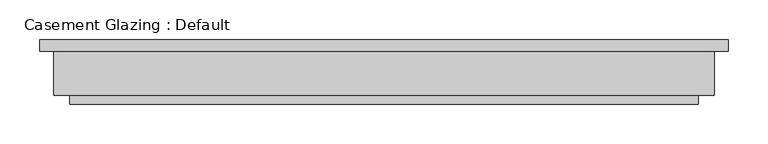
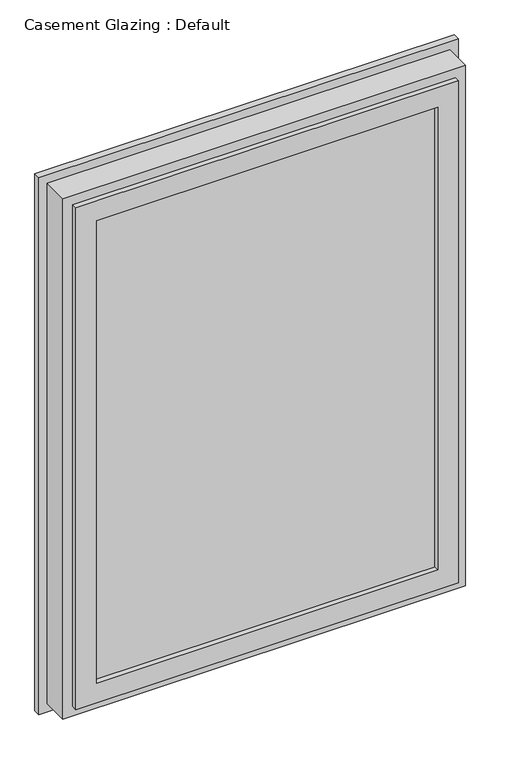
"""IFC4 building model written with IfcOpenShell, lengths in millimetres: proxy geometry, Casement Glazing : Default."""

from ifc_helpers import new_model, si_unit, frame, origin, place, context, project, spatial, polyline, outline, extrude, faceted_brep, source, transform, mapped, element, save


def casement_glazing_default_a0a45db6(model_context):
    return source(origin(), model_context, "Body", "SolidModel", [
        extrude(outline(polyline([(-381.0, -64.29375), (381.0, -64.29375), (381.0, -69.85), (-381.0, -69.85), (-381.0, -64.29375)])), frame((0.0, 0.0, 838.2), z_axis=(0.0, 0.0, 1.0), x_axis=(1.0, 0.0, 0.0)), (0.0, 0.0, 1.0), 1066.8),
        extrude(outline(polyline([(-381.0, -41.275), (381.0, -41.275), (381.0, -46.83125), (-381.0, -46.83125), (-381.0, -41.275)])), frame((0.0, 0.0, 838.2), z_axis=(0.0, 0.0, 1.0), x_axis=(1.0, 0.0, 0.0)), (0.0, 0.0, 1.0), 1066.8),
        faceted_brep([(-350.8375, -41.275, 868.3625), (350.8375, -41.275, 868.3625), (355.6, 0.0, 863.6), (-355.6, 0.0, 863.6), (-381.0, -20.6375, 838.2), (381.0, -20.6375, 838.2), (357.1875, -41.275, 862.0125), (-357.1875, -41.275, 862.0125), (-381.0, -1.5875, 838.2), (381.0, -1.5875, 838.2), (-390.525, 0.0, 828.675), (390.525, 0.0, 828.675), (390.525, -1.5875, 828.675), (-390.525, -1.5875, 828.675), (350.8375, -41.275, 1874.8375), (355.6, 0.0, 1879.6), (381.0, -20.6375, 1905.0), (357.1875, -41.275, 1881.1875), (381.0, -1.5875, 1905.0), (390.525, 0.0, 1914.525), (390.525, -1.5875, 1914.525), (-350.8375, -41.275, 1874.8375), (-355.6, 0.0, 1879.6), (-381.0, -20.6375, 1905.0), (-357.1875, -41.275, 1881.1875), (-381.0, -1.5875, 1905.0), (-390.525, 0.0, 1914.525), (-390.525, -1.5875, 1914.525)], [[[0, 1, 2, 3]], [[4, 5, 6, 7]], [[8, 9, 5, 4]], [[10, 11, 12, 13]], [[1, 14, 15, 2]], [[5, 16, 17, 6]], [[9, 18, 16, 5]], [[11, 19, 20, 12]], [[14, 21, 22, 15]], [[16, 23, 24, 17]], [[18, 25, 23, 16]], [[19, 26, 27, 20]], [[21, 0, 3, 22]], [[7, 6, 17, 24], [1, 0, 21, 14]], [[23, 4, 7, 24]], [[25, 8, 4, 23]], [[13, 12, 20, 27], [9, 8, 25, 18]], [[26, 10, 13, 27]], [[11, 10, 26, 19], [3, 2, 15, 22]]]),
        faceted_brep([(-390.525, -14.2875, 828.675), (390.525, -14.2875, 828.675), (390.525, 0.0, 828.675), (-390.525, 0.0, 828.675), (-381.0, -69.85, 838.2), (381.0, -69.85, 838.2), (381.0, -14.2875, 838.2), (-381.0, -14.2875, 838.2), (-352.425, -80.9625, 866.775), (352.425, -80.9625, 866.775), (352.425, -69.85, 866.775), (-352.425, -69.85, 866.775), (-395.2875, -69.85, 823.9125), (395.2875, -69.85, 823.9125), (395.2875, -80.9625, 823.9125), (-395.2875, -80.9625, 823.9125), (-415.925, -14.2875, 803.275), (415.925, -14.2875, 803.275), (415.925, -69.85, 803.275), (-415.925, -69.85, 803.275), (-433.3875, 0.0, 785.8125), (433.3875, 0.0, 785.8125), (433.3875, -14.2875, 785.8125), (-433.3875, -14.2875, 785.8125), (390.525, -14.2875, 1914.525), (390.525, 0.0, 1914.525), (381.0, -69.85, 1905.0), (381.0, -14.2875, 1905.0), (352.425, -80.9625, 1876.425), (352.425, -69.85, 1876.425), (395.2875, -69.85, 1919.2875), (395.2875, -80.9625, 1919.2875), (415.925, -14.2875, 1939.925), (415.925, -69.85, 1939.925), (433.3875, 0.0, 1957.3875), (433.3875, -14.2875, 1957.3875), (-390.525, -14.2875, 1914.525), (-390.525, 0.0, 1914.525), (-381.0, -69.85, 1905.0), (-381.0, -14.2875, 1905.0), (-352.425, -80.9625, 1876.425), (-352.425, -69.85, 1876.425), (-395.2875, -69.85, 1919.2875), (-395.2875, -80.9625, 1919.2875), (-415.925, -14.2875, 1939.925), (-415.925, -69.85, 1939.925), (-433.3875, 0.0, 1957.3875), (-433.3875, -14.2875, 1957.3875)], [[[0, 1, 2, 3]], [[4, 5, 6, 7]], [[8, 9, 10, 11]], [[12, 13, 14, 15]], [[16, 17, 18, 19]], [[20, 21, 22, 23]], [[1, 24, 25, 2]], [[5, 26, 27, 6]], [[9, 28, 29, 10]], [[13, 30, 31, 14]], [[17, 32, 33, 18]], [[21, 34, 35, 22]], [[24, 36, 37, 25]], [[26, 38, 39, 27]], [[28, 40, 41, 29]], [[30, 42, 43, 31]], [[32, 44, 45, 33]], [[34, 46, 47, 35]], [[36, 0, 3, 37]], [[1, 0, 36, 24], [7, 6, 27, 39]], [[38, 4, 7, 39]], [[5, 4, 38, 26], [11, 10, 29, 41]], [[40, 8, 11, 41]], [[15, 14, 31, 43], [9, 8, 40, 28]], [[42, 12, 15, 43]], [[19, 18, 33, 45], [13, 12, 42, 30]], [[44, 16, 19, 45]], [[23, 22, 35, 47], [17, 16, 44, 32]], [[46, 20, 23, 47]], [[21, 20, 46, 34], [3, 2, 25, 37]]]),
    ])


if __name__ == "__main__":
    model = new_model("IFC4")
    model_context = context("Model", 3, world=origin())
    ifc_project = project(units=[si_unit("LENGTHUNIT", "METRE", prefix="MILLI")], contexts=[model_context])
    site = spatial("IfcSite", under=ifc_project)
    building = spatial("IfcBuilding", under=site)
    placement = place(None, origin())
    casement_glazing_default_shape = casement_glazing_default_a0a45db6(model_context)
    element("IfcBuildingElementProxy", 1, Name="Casement Glazing : Default", ObjectType="Casement Glazing : Default", at=placement, inside=building, context=model_context, shape_type="MappedRepresentation", body=[
        mapped(casement_glazing_default_shape, transform((0.0, 0.0, 0.0), x_axis=(1.0, 0.0, 0.0), y_axis=(0.0, 1.0, 0.0), z_axis=(0.0, 0.0, 1.0))),
    ])
    save(model, "model.ifc")
